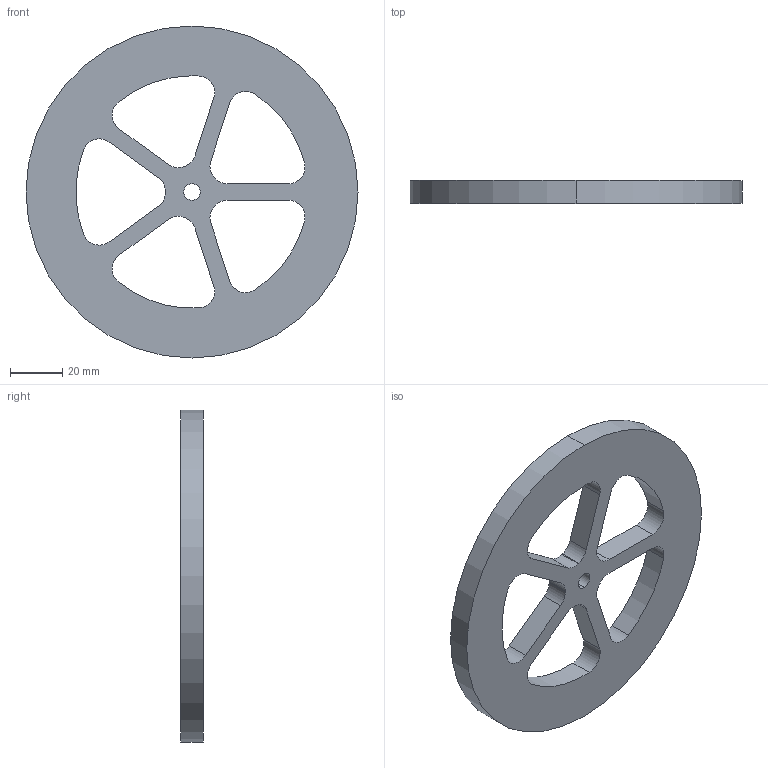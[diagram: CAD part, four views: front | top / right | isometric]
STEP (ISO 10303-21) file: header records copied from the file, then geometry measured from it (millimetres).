
FILE_DESCRIPTION (( 'STEP AP214' ), '1' );
FILE_NAME ('Flywheel_250.STEP', '2015-04-16T23:59:00', ( '' ), ( '' ), 'SwSTEP 2.0', 'SolidWorks 2012', '' );
FILE_SCHEMA (( 'AUTOMOTIVE_DESIGN' ));
Length unit declared in the file: inch
Products named in the file (1): Flywheel_250
Bounding box: 127 x 8.76 x 127 mm (x, y, z)
Volume: 70104.7 mm3; surface area: 24743.8 mm2
Topology: 1 solids, 1 shells, 50 faces, 144 edges, 96 vertices
Faces by surface type: cylinder 33, plane 17
Entity records: 1738 total; most frequent: DIRECTION 312, CARTESIAN_POINT 291, ORIENTED_EDGE 288, EDGE_CURVE 144, AXIS2_PLACEMENT_3D 117, VERTEX_POINT 96, LINE 78, VECTOR 78
